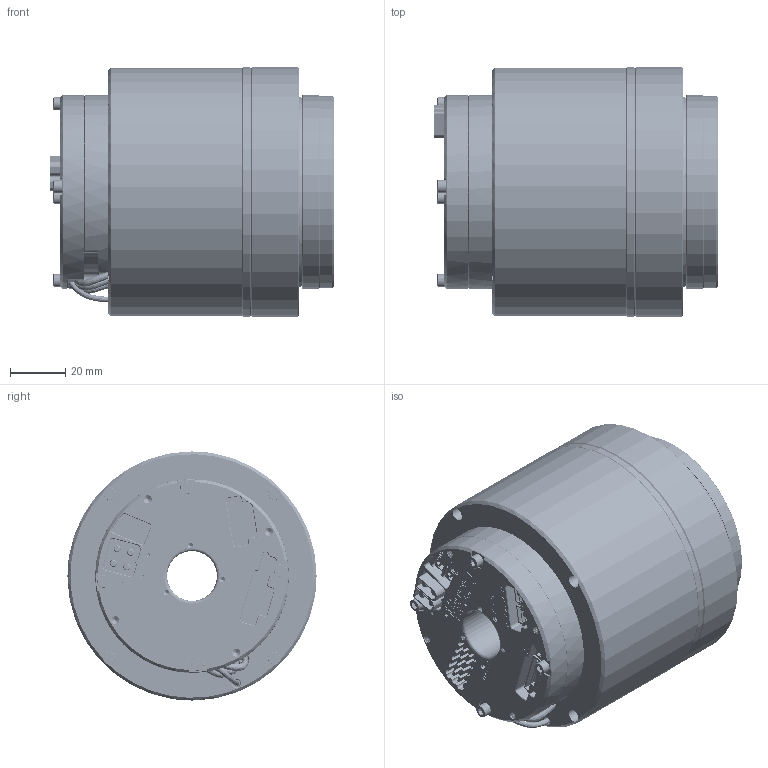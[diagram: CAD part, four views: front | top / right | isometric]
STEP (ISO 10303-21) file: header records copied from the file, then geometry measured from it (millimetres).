
FILE_DESCRIPTION (( 'STEP AP203' ), '1' );
FILE_NAME ('eRob90H｡ﾁ｡ﾁI-XX-18EX_V3_MC2A.DX.XX.step', '2024-05-21T10:25:17', ( 'Windows User' ), ( 'P R C' ), 'SwSTEP 2.0', 'SolidWorks 2021', '' );
FILE_SCHEMA (( 'CONFIG_CONTROL_DESIGN' ));
Length unit declared in the file: millimetre
Products named in the file (1): eRob90H××I-XX-18EX_V3_MC2A.DX.XX
Bounding box: 102.3 x 90 x 90 mm (x, y, z)
Volume: 510550.3 mm3; surface area: 61592.1 mm2
Topology: 1 solids, 1 shells, 4994 faces, 13520 edges, 8804 vertices
Faces by surface type: plane 2487, cylinder 1761, bspline 509, cone 168, torus 69
Entity records: 383880 total; most frequent: CARTESIAN_POINT 267700, ORIENTED_EDGE 26852, DIRECTION 20682, EDGE_CURVE 13426, VERTEX_POINT 8804, VECTOR 8274, LINE 8274, AXIS2_PLACEMENT_3D 6204
